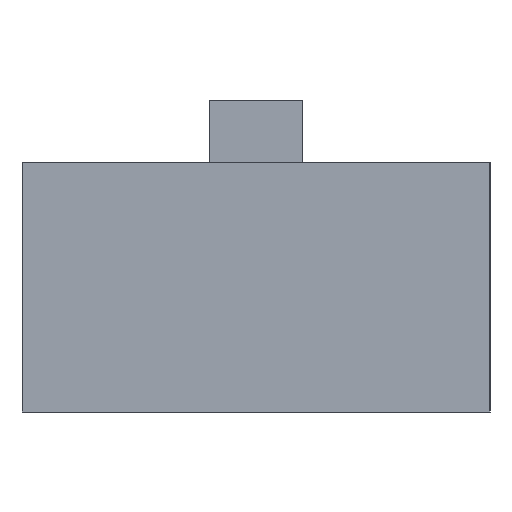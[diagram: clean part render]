
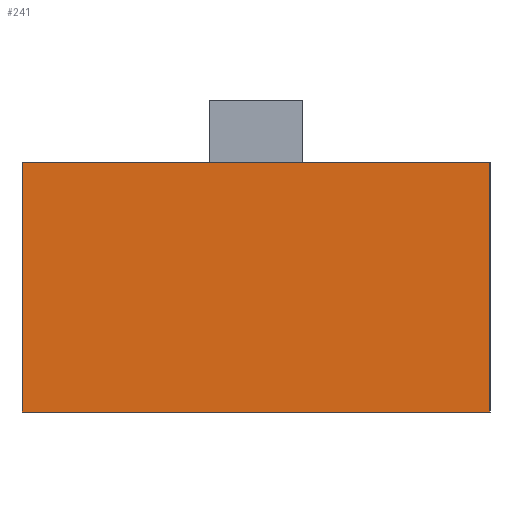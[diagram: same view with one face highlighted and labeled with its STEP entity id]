
A CAD part, left-side view. The second image highlights one B-rep face of the part: STEP entity #241.
In plain terms, the highlighted planar face has unit normal (-1, 0, 0).
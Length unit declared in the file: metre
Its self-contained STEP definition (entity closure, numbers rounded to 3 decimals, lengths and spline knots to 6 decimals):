
#25=PLANE('',#277);
#40=FACE_OUTER_BOUND('',#55,.T.);
#55=EDGE_LOOP('',(#200,#201,#202,#203));
#78=LINE('',#392,#104);
#79=LINE('',#394,#105);
#80=LINE('',#396,#106);
#81=LINE('',#397,#107);
#104=VECTOR('',#327,0.01);
#105=VECTOR('',#328,0.01);
#106=VECTOR('',#329,0.01);
#107=VECTOR('',#330,0.01);
#132=VERTEX_POINT('',#390);
#133=VERTEX_POINT('',#391);
#134=VERTEX_POINT('',#393);
#135=VERTEX_POINT('',#395);
#158=EDGE_CURVE('',#132,#133,#78,.T.);
#159=EDGE_CURVE('',#133,#134,#79,.T.);
#160=EDGE_CURVE('',#135,#134,#80,.T.);
#161=EDGE_CURVE('',#132,#135,#81,.T.);
#200=ORIENTED_EDGE('',*,*,#158,.T.);
#201=ORIENTED_EDGE('',*,*,#159,.T.);
#202=ORIENTED_EDGE('',*,*,#160,.F.);
#203=ORIENTED_EDGE('',*,*,#161,.F.);
#241=ADVANCED_FACE('',(#40),#25,.T.);
#277=AXIS2_PLACEMENT_3D('',#389,#325,#326);
#325=DIRECTION('center_axis',(-1.,0.,0.));
#326=DIRECTION('ref_axis',(0.,-1.,0.));
#327=DIRECTION('',(0.,-1.,0.));
#328=DIRECTION('',(0.,0.,1.));
#329=DIRECTION('',(0.,-1.,0.));
#330=DIRECTION('',(0.,0.,1.));
#389=CARTESIAN_POINT('Origin',(-0.125,0.075,0.));
#390=CARTESIAN_POINT('',(-0.125,0.075,0.));
#391=CARTESIAN_POINT('',(-0.125,-0.075,0.));
#392=CARTESIAN_POINT('',(-0.125,0.075,0.));
#393=CARTESIAN_POINT('',(-0.125,-0.075,0.08));
#394=CARTESIAN_POINT('',(-0.125,-0.075,0.));
#395=CARTESIAN_POINT('',(-0.125,0.075,0.08));
#396=CARTESIAN_POINT('',(-0.125,0.075,0.08));
#397=CARTESIAN_POINT('',(-0.125,0.075,0.));
